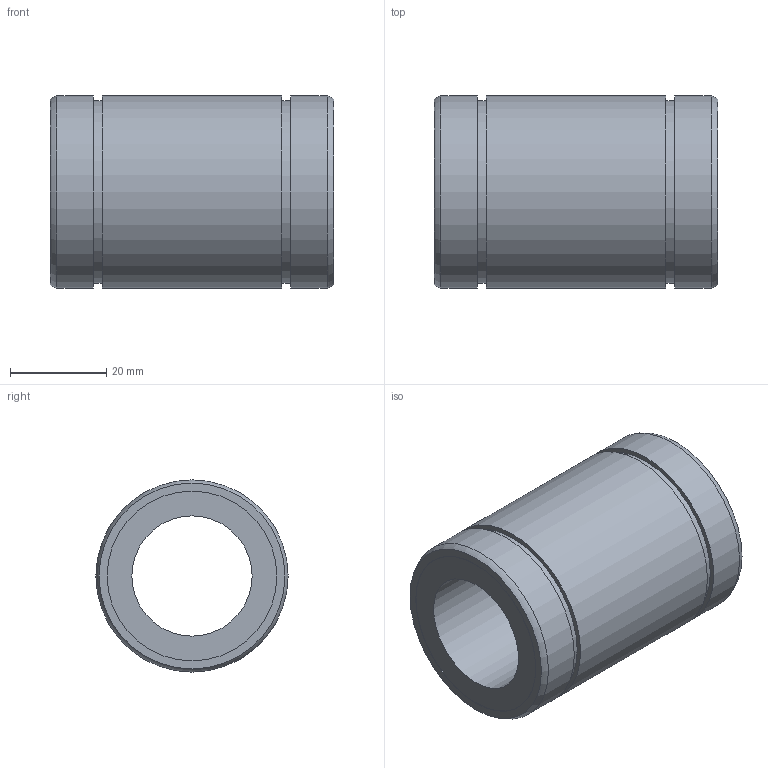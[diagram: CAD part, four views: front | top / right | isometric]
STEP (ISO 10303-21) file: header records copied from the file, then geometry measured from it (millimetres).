
FILE_DESCRIPTION((''),'2;1');
FILE_NAME('D:\製品 (図面)\カタログ用3D\リニアベアリング関連\STEP形式\L\L25B.stp','2010-06-02T17:33:11',('Tsuchiya'),(''),'Autodesk Inventor 10','Autodesk Inventor 10','');
FILE_SCHEMA(('AUTOMOTIVE_DESIGN { 1 0 10303 214 1 1 1 1 }'));
Length unit declared in the file: millimetre
Products named in the file (1): L25B
Bounding box: 59 x 40 x 40 mm (x, y, z)
Volume: 44530.5 mm3; surface area: 13921.6 mm2
Topology: 1 solids, 1 shells, 18 faces, 28 edges, 18 vertices
Faces by surface type: cylinder 8, plane 8, torus 2
Full cylindrical faces by diameter (mm): 25 x1, 35.3 x2, 38 x2, 40 x3
Entity records: 391 total; most frequent: DIRECTION 74, CARTESIAN_POINT 55, AXIS2_PLACEMENT_3D 37, ORIENTED_EDGE 36, EDGE_LOOP 36, VERTEX_POINT 18, CIRCLE 18, EDGE_CURVE 18
